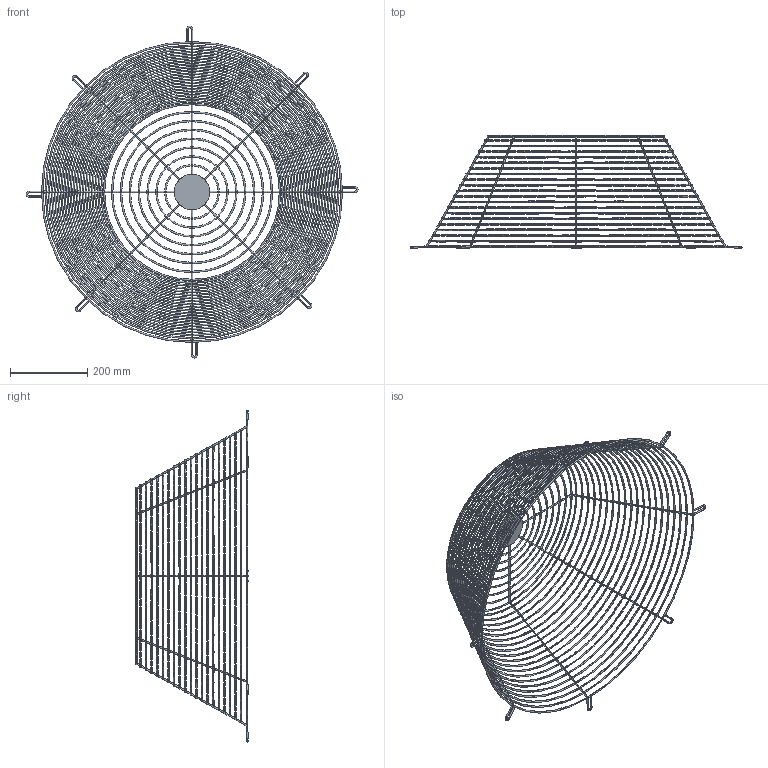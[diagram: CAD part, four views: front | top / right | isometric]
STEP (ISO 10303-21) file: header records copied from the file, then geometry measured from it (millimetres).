
FILE_DESCRIPTION(('STEP AP214'),'1');
FILE_NAME('accessory_5138826200.stp','2017-10-09T10:17:37',('TraceParts'),('TraceParts S.A.'),'Spatial InterOp 3D',' ',' ');
FILE_SCHEMA(('automotive_design'));
Length unit declared in the file: millimetre
Products named in the file (1): accessory_5138826200
Bounding box: 860 x 292 x 860 mm (x, y, z)
Volume: 665322.3 mm3; surface area: 646589.3 mm2
Topology: 1 solids, 1 shells, 364 faces, 2258 edges, 1422 vertices
Faces by surface type: torus 176, cylinder 122, plane 50, sphere 16
Entity records: 48152 total; most frequent: CARTESIAN_POINT 29869, ORIENTED_EDGE 4452, DIRECTION 2250, EDGE_CURVE 2226, VERTEX_POINT 1422, B_SPLINE_CURVE_WITH_KNOTS 1284, AXIS2_PLACEMENT_3D 943, CIRCLE 562
